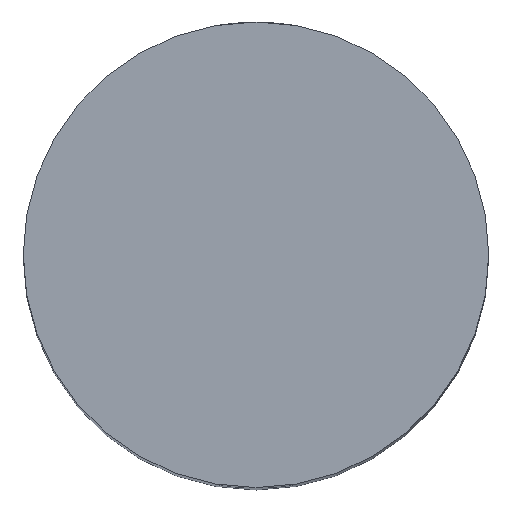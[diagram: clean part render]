
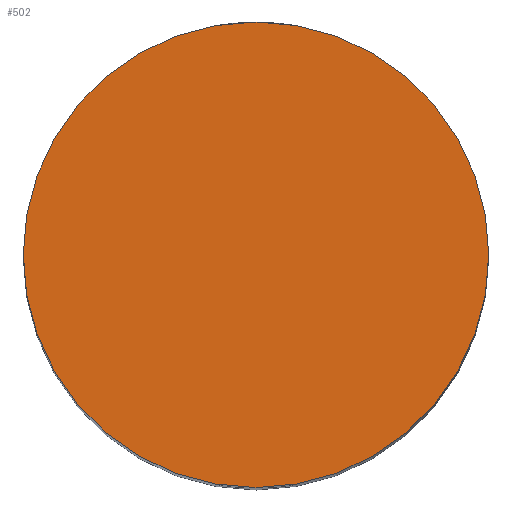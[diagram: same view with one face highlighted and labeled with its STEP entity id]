
A CAD part, top view. The second image highlights one B-rep face of the part: STEP entity #502.
In plain terms, the highlighted planar face has unit normal (0, 0, 1).
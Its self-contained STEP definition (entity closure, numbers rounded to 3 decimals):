
#31 = CYLINDRICAL_SURFACE('',#32,15.);
#32 = AXIS2_PLACEMENT_3D('',#33,#34,#35);
#33 = CARTESIAN_POINT('',(0.,0.,0.));
#34 = DIRECTION('',(0.,-0.,-1.));
#35 = DIRECTION('',(-1.,-0.,-0.));
#60 = VERTEX_POINT('',#61);
#61 = CARTESIAN_POINT('',(-15.,0.,90.));
#82 = EDGE_CURVE('',#60,#60,#83,.T.);
#83 = SURFACE_CURVE('',#84,(#89,#96),.PCURVE_S1.);
#84 = CIRCLE('',#85,15.);
#85 = AXIS2_PLACEMENT_3D('',#86,#87,#88);
#86 = CARTESIAN_POINT('',(0.,0.,90.));
#87 = DIRECTION('',(0.,0.,-1.));
#88 = DIRECTION('',(-1.,-0.,-0.));
#89 = PCURVE('',#31,#90);
#90 = DEFINITIONAL_REPRESENTATION('',(#91),#95);
#91 = LINE('',#92,#93);
#92 = CARTESIAN_POINT('',(0.,-90.));
#93 = VECTOR('',#94,1.);
#94 = DIRECTION('',(1.,0.));
#95 = ( GEOMETRIC_REPRESENTATION_CONTEXT(2) 
PARAMETRIC_REPRESENTATION_CONTEXT() REPRESENTATION_CONTEXT('2D SPACE',''
  ) );
#96 = PCURVE('',#97,#102);
#97 = PLANE('',#98);
#98 = AXIS2_PLACEMENT_3D('',#99,#100,#101);
#99 = CARTESIAN_POINT('',(0.,0.,90.));
#100 = DIRECTION('',(-0.,-0.,1.));
#101 = DIRECTION('',(1.,0.,0.));
#102 = DEFINITIONAL_REPRESENTATION('',(#103),#111);
#103 = ( BOUNDED_CURVE() B_SPLINE_CURVE(2,(#104,#105,#106,#107,#108,#109
,#110),.UNSPECIFIED.,.T.,.F.) B_SPLINE_CURVE_WITH_KNOTS((1,2,2,2,2,1),(
    -2.094,0.,2.094,4.189,6.283,
8.378),.UNSPECIFIED.) CURVE() GEOMETRIC_REPRESENTATION_ITEM() 
RATIONAL_B_SPLINE_CURVE((1.,0.5,1.,0.5,1.,0.5,1.)) REPRESENTATION_ITEM(
  '') );
#104 = CARTESIAN_POINT('',(-15.,0.));
#105 = CARTESIAN_POINT('',(-15.,25.981));
#106 = CARTESIAN_POINT('',(7.5,12.99));
#107 = CARTESIAN_POINT('',(30.,0.));
#108 = CARTESIAN_POINT('',(7.5,-12.99));
#109 = CARTESIAN_POINT('',(-15.,-25.981));
#110 = CARTESIAN_POINT('',(-15.,0.));
#111 = ( GEOMETRIC_REPRESENTATION_CONTEXT(2) 
PARAMETRIC_REPRESENTATION_CONTEXT() REPRESENTATION_CONTEXT('2D SPACE',''
  ) );
#502 = ADVANCED_FACE('',(#503),#97,.T.);
#503 = FACE_BOUND('',#504,.F.);
#504 = EDGE_LOOP('',(#505));
#505 = ORIENTED_EDGE('',*,*,#82,.T.);
